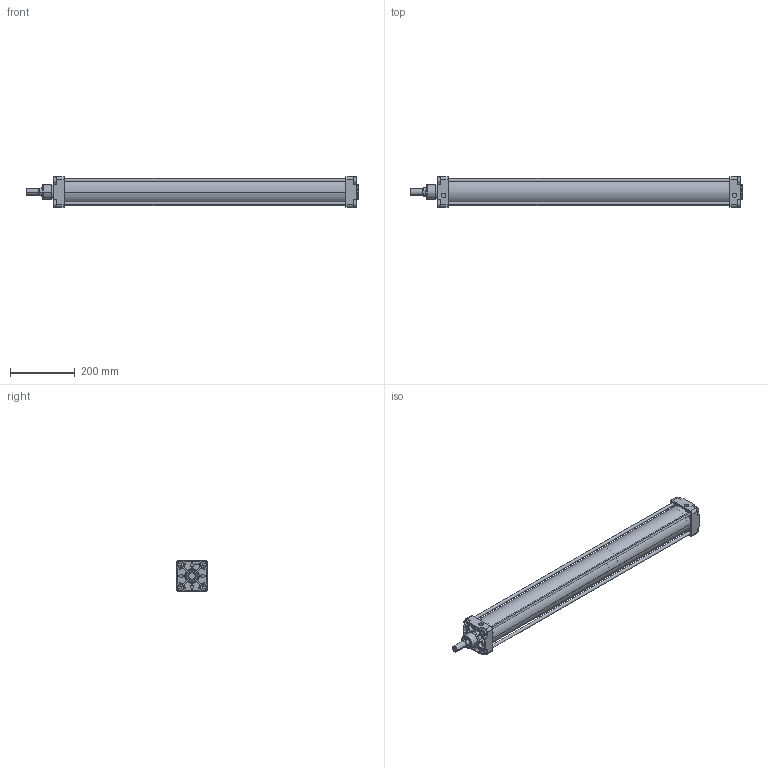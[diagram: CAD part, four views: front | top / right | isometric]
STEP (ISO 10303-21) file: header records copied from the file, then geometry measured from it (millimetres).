
FILE_DESCRIPTION(('CATIA V5 STEP Exchange'),'2;1');
FILE_NAME('D:\2-Standaed Cylinders\1-PNC\1-PNC\5-PNC-80\CATIA\PNC-Stroke 80-25\800\PNC-80-25-800.stp','2020-12-01T06:05:45+00:00',('none'),('none'),'CATIA Version 5-6 Release 2016','CATIA V5 STEP AP203','none');
FILE_SCHEMA(('CONFIG_CONTROL_DESIGN'));
Length unit declared in the file: millimetre
Products named in the file (1): PNC-80-25-800
Assembly tree (2 placements, depth 2):
  PNC-80-25-800
    #57
    #14780
Bounding box: 1023.5 x 95 x 95 mm (x, y, z)
Volume: 1822088.9 mm3; surface area: 745695.4 mm2
Topology: 6 solids, 6 shells, 560 faces, 1404 edges, 916 vertices
Faces by surface type: plane 328, cylinder 184, torus 28, extrusion 16, cone 4
Entity records: 15304 total; most frequent: CARTESIAN_POINT 3040, ORIENTED_EDGE 2808, DIRECTION 1892, EDGE_CURVE 1404, VERTEX_POINT 916, VECTOR 898, LINE 882, AXIS2_PLACEMENT_3D 722
